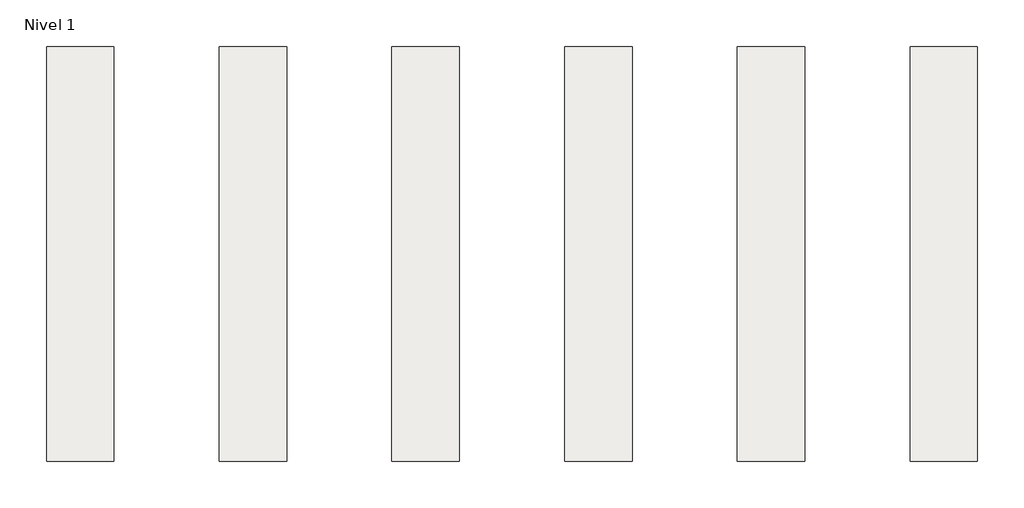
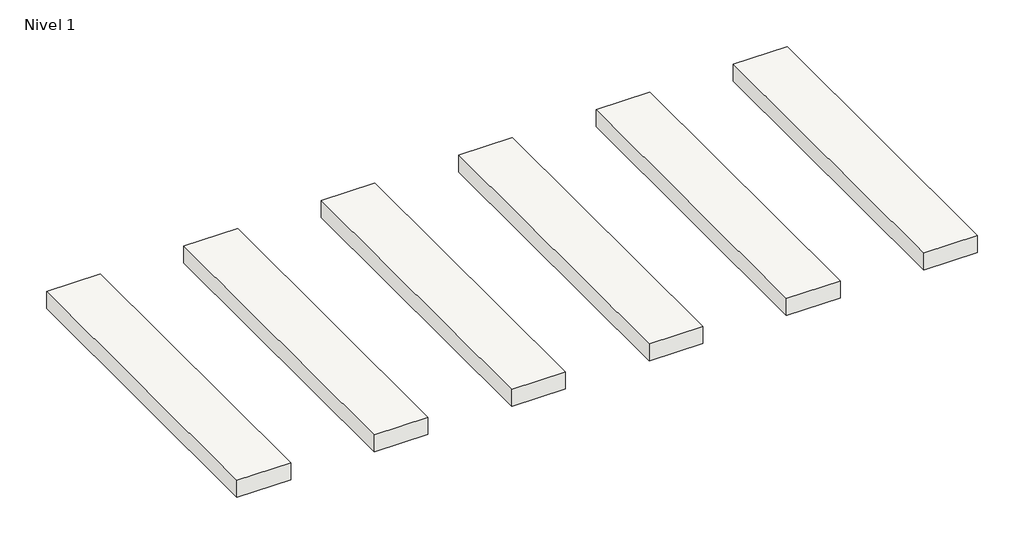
# One storey: 6 slabs.
"""IFC4 building model written with IfcOpenShell, lengths in millimetres."""

from ifc_helpers import new_model, si_unit, frame, origin, place, context, project, spatial, polyline, outline, extrude, element, save

model = new_model("IFC4")

# Units and contexts
model_context = context("Model", 3, world=origin())
ifc_project = project(units=[si_unit("LENGTHUNIT", "METRE", prefix="MILLI")], contexts=[model_context])

# Site, building, storey
site = spatial("IfcSite", under=ifc_project)
building = spatial("IfcBuilding", under=site)
storey = spatial("IfcBuildingStorey", under=building, Name="Nivel 1", Elevation=0.0)

# Slabs
placement = place(None, origin())
element("IfcSlab", 1, ObjectType="Priorato Alerce 19,5X120", at=placement, inside=storey, context=model_context, shape_type="SweptSolid", body=[
    extrude(outline(polyline([(0.0, 1200.0), (195.0, 1200.0), (195.0, 0.0), (0.0, 0.0), (0.0, 1200.0)])), frame((0.0, 0.0, -65.0), z_axis=(0.0, 0.0, 1.0), x_axis=(1.0, 0.0, 0.0)), (0.0, 0.0, 1.0), 65.0),
])
element("IfcSlab", 2, ObjectType="Priorato Nogal 19,5X120", at=placement, inside=storey, context=model_context, shape_type="SweptSolid", body=[
    extrude(outline(polyline([(500.0, 1200.0), (695.0, 1200.0), (695.0, 0.0), (500.0, 0.0), (500.0, 1200.0)])), frame((0.0, 0.0, -65.0), z_axis=(0.0, 0.0, 1.0), x_axis=(1.0, 0.0, 0.0)), (0.0, 0.0, 1.0), 65.0),
])
element("IfcSlab", 3, ObjectType="Priorato Roble 19,5X120", at=placement, inside=storey, context=model_context, shape_type="SweptSolid", body=[
    extrude(outline(polyline([(1000.0, 1200.0), (1195.0, 1200.0), (1195.0, 0.0), (1000.0, 0.0), (1000.0, 1200.0)])), frame((0.0, 0.0, -65.0), z_axis=(0.0, 0.0, 1.0), x_axis=(1.0, 0.0, 0.0)), (0.0, 0.0, 1.0), 65.0),
])
element("IfcSlab", 4, ObjectType="Priorato Antislip Alerce 19,5X120", at=placement, inside=storey, context=model_context, shape_type="SweptSolid", body=[
    extrude(outline(polyline([(1500.0, 1200.0), (1695.0, 1200.0), (1695.0, 0.0), (1500.0, 0.0), (1500.0, 1200.0)])), frame((0.0, 0.0, -65.0), z_axis=(0.0, 0.0, 1.0), x_axis=(1.0, 0.0, 0.0)), (0.0, 0.0, 1.0), 65.0),
])
element("IfcSlab", 5, ObjectType="Priorato Antislip Nogal 19,5X120", at=placement, inside=storey, context=model_context, shape_type="SweptSolid", body=[
    extrude(outline(polyline([(2000.0, 1200.0), (2195.0, 1200.0), (2195.0, 0.0), (2000.0, 0.0), (2000.0, 1200.0)])), frame((0.0, 0.0, -65.0), z_axis=(0.0, 0.0, 1.0), x_axis=(1.0, 0.0, 0.0)), (0.0, 0.0, 1.0), 65.0),
])
element("IfcSlab", 6, ObjectType="Priorato Antislip Roble 19,5X120", at=placement, inside=storey, context=model_context, shape_type="SweptSolid", body=[
    extrude(outline(polyline([(2500.0, 1200.0), (2695.0, 1200.0), (2695.0, 0.0), (2500.0, 0.0), (2500.0, 1200.0)])), frame((0.0, 0.0, -65.0), z_axis=(0.0, 0.0, 1.0), x_axis=(1.0, 0.0, 0.0)), (0.0, 0.0, 1.0), 65.0),
])

save(model, "model.ifc")
